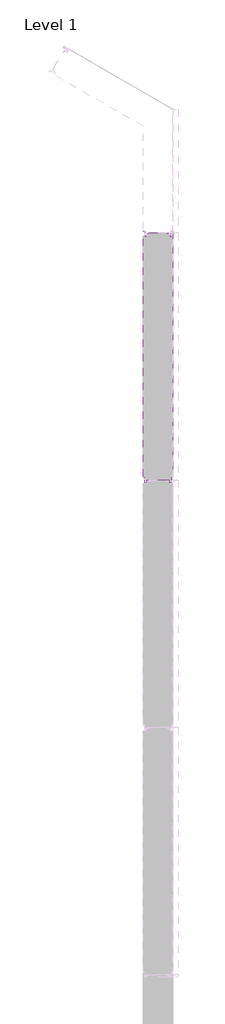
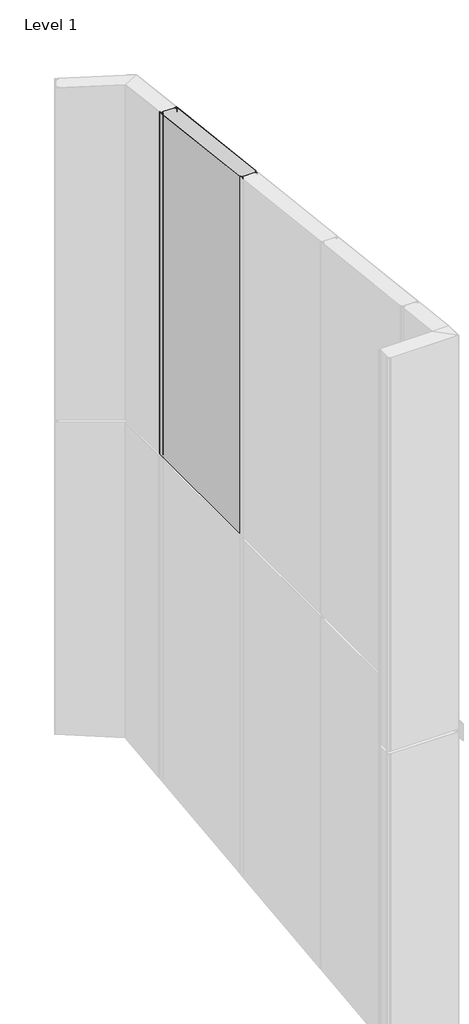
# One storey, part 11 of 16: 1 plate.
"""IFC4 building model written with IfcOpenShell, lengths in millimetres."""

from ifc_helpers import new_model, si_unit, frame, origin, place, context, project, spatial, polyline, circle_curve, ellipse_curve, element, save
from ifc_brep_helpers import plane_surface, cylinder_surface, revolved_surface, advanced_brep

model = new_model("IFC4")

# Units and contexts
model_context = context("Model", 3, world=origin())
ifc_project = project(units=[si_unit("LENGTHUNIT", "METRE", prefix="MILLI")], contexts=[model_context])

# Site, building, storey
site = spatial("IfcSite", under=ifc_project)
building = spatial("IfcBuilding", under=site)
storey = spatial("IfcBuildingStorey", under=building, Name="Level 1", Elevation=0.0)

# Plate
placement = place(None, origin())
element("IfcPlate", 1, ObjectType="TR_C_V_FTV_Panel : 120/RAL9006/RAL9002", at=placement, inside=storey, context=model_context, shape_type="AdvancedBrep", body=[
    advanced_brep(
    [(-11.0024729, 6469.8069107, 3000.0), (-6.5215976, 6466.0470099, 3000.0), (-5.7782846, 6461.8314726, 3000.0), (-0.9155057, 6462.2569107, 3000.0), (-0.9155057, 6477.0069107, 3000.0), (0.051042, 6479.340363, 3000.0), (4.4401293, 6483.7294503, 3000.0), (5.0844943, 6485.2850853, 3000.0), (5.0844943, 7474.6255398, 3000.0), (4.5133526, 7476.004398, 3000.0), (2.6476671, 7477.8700835, 3000.0), (0.6844943, 7477.0569107, 3000.0), (0.6844943, 7459.4569107, 3000.0), (-7.7509386, 7458.7189059, 3000.0), (-8.8177639, 7464.7691728, 3000.0), (-11.7229468, 7467.2069107, 3000.0), (-15.1155057, 7467.2069107, 3000.0), (-15.1155057, 7468.0069107, 3000.0), (-11.7229468, 7468.0069107, 3000.0), (-8.0299177, 7464.9080913, 3000.0), (-6.9630924, 7458.8578244, 3000.0), (-0.1155057, 7459.4569107, 3000.0), (-0.1155057, 7477.0569107, 3000.0), (3.2133526, 7478.4357689, 3000.0), (5.079038, 7476.5700835, 3000.0), (5.8844943, 7474.6255398, 3000.0), (5.8844943, 6485.2850853, 3000.0), (5.0058147, 6483.1637649, 3000.0), (0.6167274, 6478.7746776, 3000.0), (-0.1155057, 6477.0069107, 3000.0), (-0.1155057, 6462.2569107, 3000.0), (-6.5661308, 6461.6925541, 3000.0), (-7.3094438, 6465.9080913, 3000.0), (-11.0024729, 6469.0069107, 3000.0), (-15.1155057, 6469.0069107, 3000.0), (-15.1155057, 6469.8069107, 3000.0), (-15.1155057, 6469.8069107, 5703.2325583), (-11.0024729, 6469.8069107, 5703.2325583), (-15.1155057, 6469.0069107, 5703.3255816), (-11.0024729, 6469.0069107, 5703.3255816), (-7.3094438, 6465.9080913, 5703.6859094), (-6.5661308, 6461.6925541, 5704.1760881), (-0.1155057, 6462.2569107, 5704.1104653), (-0.1155057, 6477.0069107, 5702.395349), (0.6167274, 6478.7746776, 5702.1897947), (5.0058147, 6483.1637649, 5701.6794357), (5.8844943, 6485.2850853, 5701.4327706), (5.8844943, 7474.6255398, 5586.3931828), (5.079038, 7476.5700835, 5586.1670731), (3.2133526, 7478.4357689, 5585.9501329), (-0.1155057, 7477.0569107, 5586.1104653), (-0.1155057, 7459.4569107, 5588.1569769), (-6.9630924, 7458.8578244, 5588.2266381), (-8.0299177, 7464.9080913, 5587.5231187), (-11.7229468, 7468.0069107, 5587.1627909), (-15.1155057, 7468.0069107, 5587.1627909), (-15.1155057, 7467.2069107, 5587.2558141), (-11.7229468, 7467.2069107, 5587.2558141), (-8.8177639, 7464.7691728, 5587.539272), (-7.7509386, 7458.7189059, 5588.2427914), (0.6844943, 7459.4569107, 5588.1569769), (0.6844943, 7477.0569107, 5586.1104653), (2.6476671, 7477.8700835, 5586.0159103), (4.5133526, 7476.004398, 5586.2328505), (5.0844943, 7474.6255398, 5586.3931828), (5.0844943, 6485.2850853, 5701.4327706), (4.4401293, 6483.7294503, 5701.6136583), (0.051042, 6479.340363, 5702.1240173), (-0.9155057, 6477.0069107, 5702.395349), (-0.9155057, 6462.2569107, 5704.1104653), (-5.7782846, 6461.8314726, 5704.1599348), (-6.5215976, 6466.0470099, 5703.6697561)],
    [
        (0, 1, circle_curve(frame((-11.0024729, 6465.2569107, 3000.0), z_axis=(0.0, 0.0, -1.0), x_axis=(0.0, -1.0, 0.0)), 4.55)),
        (1, 2),
        (2, 3, circle_curve(frame((-3.3655057, 6462.2569107, 3000.0), z_axis=(0.0, 0.0, 1.0), x_axis=(0.0, -1.0, 0.0)), 2.45)),
        (3, 4),
        (4, 5, circle_curve(frame((2.3844943, 6477.0069107, 3000.0), z_axis=(0.0, 0.0, -1.0), x_axis=(0.0, -1.0, 0.0)), 3.3)),
        (5, 6),
        (6, 7, circle_curve(frame((2.8844943, 6485.2850853, 3000.0), z_axis=(0.0, 0.0, 1.0), x_axis=(0.0, -1.0, 0.0)), 2.2)),
        (7, 8),
        (8, 9, circle_curve(frame((3.1344943, 7474.6255398, 3000.0), z_axis=(0.0, 0.0, 1.0), x_axis=(0.0, -1.0, 0.0)), 1.95)),
        (9, 10),
        (10, 11, circle_curve(frame((1.8344943, 7477.0569107, 3000.0), z_axis=(0.0, 0.0, 1.0), x_axis=(0.0, -1.0, 0.0)), 1.15)),
        (11, 12),
        (12, 13, circle_curve(frame((-3.5655057, 7459.4569107, 3000.0), z_axis=(0.0, 0.0, -1.0), x_axis=(0.0, -1.0, 0.0)), 4.25)),
        (13, 14),
        (14, 15, circle_curve(frame((-11.7229468, 7464.2569107, 3000.0), z_axis=(0.0, 0.0, 1.0), x_axis=(0.0, -1.0, 0.0)), 2.95)),
        (15, 16),
        (16, 17),
        (17, 18),
        (18, 19, circle_curve(frame((-11.7229468, 7464.2569107, 3000.0), z_axis=(0.0, 0.0, -1.0), x_axis=(0.0, -1.0, 0.0)), 3.75)),
        (19, 20),
        (20, 21, circle_curve(frame((-3.5655057, 7459.4569107, 3000.0), z_axis=(0.0, 0.0, 1.0), x_axis=(0.0, -1.0, 0.0)), 3.45)),
        (21, 22),
        (22, 23, circle_curve(frame((1.8344943, 7477.0569107, 3000.0), z_axis=(0.0, 0.0, -1.0), x_axis=(0.0, -1.0, 0.0)), 1.95)),
        (23, 24),
        (24, 25, circle_curve(frame((3.1344943, 7474.6255398, 3000.0), z_axis=(0.0, 0.0, -1.0), x_axis=(0.0, -1.0, 0.0)), 2.75)),
        (25, 26),
        (26, 27, circle_curve(frame((2.8844943, 6485.2850853, 3000.0), z_axis=(0.0, 0.0, -1.0), x_axis=(0.0, -1.0, 0.0)), 3.0)),
        (27, 28),
        (28, 29, circle_curve(frame((2.3844943, 6477.0069107, 3000.0), z_axis=(0.0, 0.0, 1.0), x_axis=(0.0, -1.0, 0.0)), 2.5)),
        (29, 30),
        (30, 31, circle_curve(frame((-3.3655057, 6462.2569107, 3000.0), z_axis=(0.0, 0.0, -1.0), x_axis=(0.0, -1.0, 0.0)), 3.25)),
        (31, 32),
        (32, 33, circle_curve(frame((-11.0024729, 6465.2569107, 3000.0), z_axis=(0.0, 0.0, 1.0), x_axis=(0.0, -1.0, 0.0)), 3.75)),
        (33, 34),
        (34, 35),
        (35, 0),
        (35, 36),
        (36, 37),
        (37, 0),
        (34, 38),
        (38, 36),
        (33, 39),
        (39, 38),
        (32, 40),
        (40, 39, ellipse_curve(frame((-11.0024729, 6465.2569107, 5703.7616281), z_axis=(0.0, 0.1155008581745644, 0.9933073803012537), x_axis=(0.0, 0.9933073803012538, -0.11550085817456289)), 3.7752664, 3.75)),
        (31, 41),
        (41, 40),
        (30, 42),
        (42, 41, ellipse_curve(frame((-3.3655057, 6462.2569107, 5704.1104653), z_axis=(0.0, -0.1155008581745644, -0.9933073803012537), x_axis=(0.0, -0.9933073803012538, 0.11550085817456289)), 3.2718976, 3.25)),
        (29, 43),
        (43, 42),
        (28, 44),
        (44, 43, ellipse_curve(frame((2.3844943, 6477.0069107, 5702.395349), z_axis=(0.0, 0.1155008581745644, 0.9933073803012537), x_axis=(0.0, 0.9933073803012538, -0.11550085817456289)), 2.5168443, 2.5)),
        (27, 45),
        (45, 44),
        (26, 46),
        (46, 45, ellipse_curve(frame((2.8844943, 6485.2850853, 5701.4327706), z_axis=(0.0, -0.1155008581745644, -0.9933073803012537), x_axis=(0.0, -0.9933073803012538, 0.11550085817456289)), 3.0202131, 3.0)),
        (25, 47),
        (47, 46),
        (24, 48),
        (48, 47, ellipse_curve(frame((3.1344943, 7474.6255398, 5586.3931828), z_axis=(0.0, -0.1155008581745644, -0.9933073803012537), x_axis=(0.0, -0.9933073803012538, 0.11550085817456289)), 2.7685287, 2.75)),
        (23, 49),
        (49, 48),
        (22, 50),
        (50, 49, ellipse_curve(frame((1.8344943, 7477.0569107, 5586.1104653), z_axis=(0.0, -0.1155008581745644, -0.9933073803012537), x_axis=(0.0, -0.9933073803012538, 0.11550085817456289)), 1.9631385, 1.95)),
        (21, 51),
        (51, 50),
        (20, 52),
        (52, 51, ellipse_curve(frame((-3.5655057, 7459.4569107, 5588.1569769), z_axis=(0.0, 0.1155008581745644, 0.9933073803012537), x_axis=(0.0, 0.9933073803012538, -0.11550085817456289)), 3.4732451, 3.45)),
        (19, 53),
        (53, 52),
        (18, 54),
        (54, 53, ellipse_curve(frame((-11.7229468, 7464.2569107, 5587.5988374), z_axis=(0.0, -0.1155008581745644, -0.9933073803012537), x_axis=(0.0, -0.9933073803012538, 0.11550085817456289)), 3.7752664, 3.75)),
        (17, 55),
        (55, 54),
        (16, 56),
        (56, 55),
        (15, 57),
        (57, 56),
        (14, 58),
        (58, 57, ellipse_curve(frame((-11.7229468, 7464.2569107, 5587.5988374), z_axis=(0.0, 0.1155008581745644, 0.9933073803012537), x_axis=(0.0, 0.9933073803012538, -0.11550085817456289)), 2.9698763, 2.95)),
        (13, 59),
        (59, 58),
        (12, 60),
        (60, 59, ellipse_curve(frame((-3.5655057, 7459.4569107, 5588.1569769), z_axis=(0.0, -0.1155008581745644, -0.9933073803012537), x_axis=(0.0, -0.9933073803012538, 0.11550085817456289)), 4.2786353, 4.25)),
        (11, 61),
        (61, 60),
        (10, 62),
        (62, 61, ellipse_curve(frame((1.8344943, 7477.0569107, 5586.1104653), z_axis=(0.0, 0.1155008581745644, 0.9933073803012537), x_axis=(0.0, 0.9933073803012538, -0.11550085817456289)), 1.1577484, 1.15)),
        (9, 63),
        (63, 62),
        (8, 64),
        (64, 63, ellipse_curve(frame((3.1344943, 7474.6255398, 5586.3931828), z_axis=(0.0, 0.1155008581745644, 0.9933073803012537), x_axis=(0.0, 0.9933073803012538, -0.11550085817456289)), 1.9631385, 1.95)),
        (7, 65),
        (65, 64),
        (6, 66),
        (66, 65, ellipse_curve(frame((2.8844943, 6485.2850853, 5701.4327706), z_axis=(0.0, 0.1155008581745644, 0.9933073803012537), x_axis=(0.0, 0.9933073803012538, -0.11550085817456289)), 2.214823, 2.2)),
        (5, 67),
        (67, 66),
        (4, 68),
        (68, 67, ellipse_curve(frame((2.3844943, 6477.0069107, 5702.395349), z_axis=(0.0, -0.1155008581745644, -0.9933073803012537), x_axis=(0.0, -0.9933073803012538, 0.11550085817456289)), 3.3222345, 3.3)),
        (3, 69),
        (69, 68),
        (2, 70),
        (70, 69, ellipse_curve(frame((-3.3655057, 6462.2569107, 5704.1104653), z_axis=(0.0, 0.1155008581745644, 0.9933073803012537), x_axis=(0.0, 0.9933073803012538, -0.11550085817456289)), 2.4665074, 2.45)),
        (1, 71),
        (71, 70),
        (37, 71, ellipse_curve(frame((-11.0024729, 6465.2569107, 5703.7616281), z_axis=(0.0, -0.1155008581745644, -0.9933073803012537), x_axis=(0.0, -0.9933073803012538, 0.11550085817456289)), 4.5806566, 4.55)),
    ],
    [
        plane_surface(frame((-15.1155057, 6469.8069107, 3000.0), z_axis=(0.0, 0.0, -1.0), x_axis=(1.0, 0.0, 0.0))),
        plane_surface(frame((-11.0024729, 6469.8069107, 5980.0), z_axis=(0.0, 1.0, 0.0), x_axis=(0.0, 0.0, -1.0))),
        plane_surface(frame((-15.1155057, 6469.8069107, 5980.0), z_axis=(-1.0, 0.0, 0.0), x_axis=(0.0, 0.0, -1.0))),
        plane_surface(frame((-15.1155057, 6469.0069107, 5980.0), z_axis=(0.0, -1.0, 0.0), x_axis=(0.0, 0.0, -1.0))),
        revolved_surface(polyline([(-11.0024729, 6461.5069107, 3000.0), (-11.0024729, 6461.5069107, 5704.197674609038)]), (-11.0024729, 6465.2569107, 3000.0), (0.0, 0.0, -1.0)),
        plane_surface(frame((-7.3094438, 6465.9080913, 5980.0), z_axis=(-0.9848077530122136, -0.17364817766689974, 0.0), x_axis=(0.0, 0.0, -1.0))),
        cylinder_surface(frame((-3.3655057, 6462.2569107, 3000.0), z_axis=(0.0, 0.0, 1.0), x_axis=(0.0, -1.0, 0.0)), 3.25),
        plane_surface(frame((-0.1155057, 6462.2569107, 5980.0), z_axis=(1.0, 0.0, 0.0), x_axis=(0.0, 0.0, -1.0))),
        revolved_surface(polyline([(2.3844943, 6474.5069107, 3000.0), (2.3844943, 6474.5069107, 5702.686046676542)]), (2.3844943, 6477.0069107, 3000.0), (0.0, 0.0, -1.0)),
        plane_surface(frame((0.6167274, 6478.7746776, 5980.0), z_axis=(0.7071067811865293, -0.7071067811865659, 0.0), x_axis=(0.0, 0.0, -1.0))),
        cylinder_surface(frame((2.8844943, 6485.2850853, 3000.0), z_axis=(0.0, 0.0, 1.0), x_axis=(0.0, -1.0, 0.0)), 3.0),
        plane_surface(frame((5.8844943, 6485.2850853, 5980.0), z_axis=(1.0, 0.0, 0.0), x_axis=(0.0, 0.0, -1.0))),
        cylinder_surface(frame((3.1344943, 7474.6255398, 3000.0), z_axis=(0.0, 0.0, 1.0), x_axis=(0.0, -1.0, 0.0)), 2.75),
        plane_surface(frame((5.079038, 7476.5700835, 5980.0), z_axis=(0.7071067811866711, 0.707106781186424, 0.0), x_axis=(0.0, 0.0, -1.0))),
        cylinder_surface(frame((1.8344943, 7477.0569107, 3000.0), z_axis=(0.0, 0.0, 1.0), x_axis=(0.0, -1.0, 0.0)), 1.95),
        plane_surface(frame((-0.1155057, 7477.0569107, 5980.0), z_axis=(-1.0, 0.0, 0.0), x_axis=(0.0, 0.0, -1.0))),
        revolved_surface(polyline([(-3.5655057, 7456.0069107, 3000.0), (-3.5655057, 7456.0069107, 5588.5581396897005)]), (-3.5655057, 7459.4569107, 3000.0), (0.0, 0.0, -1.0)),
        plane_surface(frame((-6.9630924, 7458.8578244, 5980.0), z_axis=(0.9848077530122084, 0.17364817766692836, 0.0), x_axis=(0.0, 0.0, -1.0))),
        cylinder_surface(frame((-11.7229468, 7464.2569107, 3000.0), z_axis=(0.0, 0.0, 1.0), x_axis=(0.0, -1.0, 0.0)), 3.75),
        plane_surface(frame((-11.7229468, 7468.0069107, 5980.0), z_axis=(0.0, 1.0, 0.0), x_axis=(0.0, 0.0, -1.0))),
        plane_surface(frame((-15.1155057, 7468.0069107, 5980.0), z_axis=(-1.0, 0.0, 0.0), x_axis=(0.0, 0.0, -1.0))),
        plane_surface(frame((-15.1155057, 7467.2069107, 5980.0), z_axis=(0.0, -1.0, 0.0), x_axis=(0.0, 0.0, -1.0))),
        revolved_surface(polyline([(-11.7229468, 7461.3069107, 3000.0), (-11.7229468, 7461.3069107, 5587.941860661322)]), (-11.7229468, 7464.2569107, 3000.0), (0.0, 0.0, -1.0)),
        plane_surface(frame((-8.8177639, 7464.7691728, 5980.0), z_axis=(-0.9848077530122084, -0.17364817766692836, 0.0), x_axis=(0.0, 0.0, -1.0))),
        cylinder_surface(frame((-3.5655057, 7459.4569107, 3000.0), z_axis=(0.0, 0.0, 1.0), x_axis=(0.0, -1.0, 0.0)), 4.25),
        plane_surface(frame((0.6844943, 7459.4569107, 5980.0), z_axis=(1.0, 0.0, 0.0), x_axis=(0.0, 0.0, -1.0))),
        revolved_surface(polyline([(1.8344943, 7475.9069107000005, 3000.0), (1.8344943, 7475.9069107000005, 5586.244186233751)]), (1.8344943, 7477.0569107, 3000.0), (0.0, 0.0, -1.0)),
        plane_surface(frame((2.6476671, 7477.8700835, 5980.0), z_axis=(-0.7071067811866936, -0.7071067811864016, 0.0), x_axis=(0.0, 0.0, -1.0))),
        revolved_surface(polyline([(3.1344943, 7472.6755398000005, 3000.0), (3.1344943, 7472.6755398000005, 5586.619926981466)]), (3.1344943, 7474.6255398, 3000.0), (0.0, 0.0, -1.0)),
        plane_surface(frame((5.0844943, 7474.6255398, 5980.0), z_axis=(-1.0, 0.0, 0.0), x_axis=(0.0, 0.0, -1.0))),
        revolved_surface(polyline([(2.8844943, 6483.0850853, 3000.0), (2.8844943, 6483.0850853, 5701.688584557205)]), (2.8844943, 6485.2850853, 3000.0), (0.0, 0.0, -1.0)),
        plane_surface(frame((4.4401293, 6483.7294503, 5980.0), z_axis=(-0.7071067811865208, 0.7071067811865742, 0.0), x_axis=(0.0, 0.0, -1.0))),
        cylinder_surface(frame((2.3844943, 6477.0069107, 3000.0), z_axis=(0.0, 0.0, 1.0), x_axis=(0.0, -1.0, 0.0)), 3.3),
        plane_surface(frame((-0.9155057, 6477.0069107, 5980.0), z_axis=(-1.0, 0.0, 0.0), x_axis=(0.0, 0.0, -1.0))),
        revolved_surface(polyline([(-3.3655057, 6459.8069107, 3000.0), (-3.3655057, 6459.8069107, 5704.3953490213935)]), (-3.3655057, 6462.2569107, 3000.0), (0.0, 0.0, -1.0)),
        plane_surface(frame((-5.7782846, 6461.8314726, 5980.0), z_axis=(0.9848077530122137, 0.17364817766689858, 0.0), x_axis=(0.0, 0.0, -1.0))),
        cylinder_surface(frame((-11.0024729, 6465.2569107, 3000.0), z_axis=(0.0, 0.0, 1.0), x_axis=(0.0, -1.0, 0.0)), 4.55),
        plane_surface(frame((5.8844943, 6239.6069121, 5730.0), z_axis=(0.0, 0.1155008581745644, 0.9933073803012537), x_axis=(0.0, -0.9933073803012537, 0.1155008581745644))),
    ],
    [
        (0, [[1, 2, 3, 4, 5, 6, 7, 8, 9, 10, 11, 12, 13, 14, 15, 16, 17, 18, 19, 20, 21, 22, 23, 24, 25, 26, 27, 28, 29, 30, 31, 32, 33, 34, 35, 36]]),
        (1, [[-36, 37, 38, 39]]),
        (2, [[-35, 40, 41, -37]]),
        (3, [[-34, 42, 43, -40]]),
        (4, [[-33, 44, 45, -42]]),
        (5, [[-32, 46, 47, -44]]),
        (6, [[-31, 48, 49, -46]]),
        (7, [[-30, 50, 51, -48]]),
        (8, [[-29, 52, 53, -50]]),
        (9, [[-28, 54, 55, -52]]),
        (10, [[-27, 56, 57, -54]]),
        (11, [[-26, 58, 59, -56]]),
        (12, [[-25, 60, 61, -58]]),
        (13, [[-24, 62, 63, -60]]),
        (14, [[-23, 64, 65, -62]]),
        (15, [[-22, 66, 67, -64]]),
        (16, [[-21, 68, 69, -66]]),
        (17, [[-20, 70, 71, -68]]),
        (18, [[-19, 72, 73, -70]]),
        (19, [[-18, 74, 75, -72]]),
        (20, [[-17, 76, 77, -74]]),
        (21, [[-16, 78, 79, -76]]),
        (22, [[-15, 80, 81, -78]]),
        (23, [[-14, 82, 83, -80]]),
        (24, [[-13, 84, 85, -82]]),
        (25, [[-12, 86, 87, -84]]),
        (26, [[-11, 88, 89, -86]]),
        (27, [[-10, 90, 91, -88]]),
        (28, [[-9, 92, 93, -90]]),
        (29, [[-8, 94, 95, -92]]),
        (30, [[-7, 96, 97, -94]]),
        (31, [[-6, 98, 99, -96]]),
        (32, [[-5, 100, 101, -98]]),
        (33, [[-4, 102, 103, -100]]),
        (34, [[-3, 104, 105, -102]]),
        (35, [[-2, 106, 107, -104]]),
        (36, [[-1, -39, 108, -106]]),
        (37, [[-38, -41, -43, -45, -47, -49, -51, -53, -55, -57, -59, -61, -63, -65, -67, -69, -71, -73, -75, -77, -79, -81, -83, -85, -87, -89, -91, -93, -95, -97, -99, -101, -103, -105, -107, -108]]),
    ],
),
    advanced_brep(
    [(-17.8155057, 7469.6069107, 3000.0), (-17.8155057, 7467.2069107, 3000.0), (-11.7229468, 7467.2069107, 3000.0), (-8.8177639, 7464.7691728, 3000.0), (-7.7509386, 7458.7189059, 3000.0), (-3.5655057, 7455.2069107, 3000.0), (5.0844943, 7455.2069107, 3000.0), (5.0844943, 6485.2850853, 3000.0), (4.4401293, 6483.7294503, 3000.0), (0.051042, 6479.340363, 3000.0), (-0.9155057, 6477.0069107, 3000.0), (-0.9155057, 6469.6069118, 3000.0), (-107.3155057, 6469.6069118, 3000.0), (-107.3155057, 6477.0069107, 3000.0), (-108.2820533, 6479.340363, 3000.0), (-112.6711406, 6483.7294503, 3000.0), (-113.3155057, 6485.2850853, 3000.0), (-113.3155057, 7455.2069107, 3000.0), (-104.6655057, 7455.2069107, 3000.0), (-100.4800727, 7458.7189059, 3000.0), (-99.4132474, 7464.7691728, 3000.0), (-96.5080645, 7467.2069107, 3000.0), (-90.4155057, 7467.2069107, 3000.0), (-90.4155057, 7469.6069107, 3000.0), (-90.4155057, 7469.6069107, 5586.9767444), (-17.8155057, 7469.6069107, 5586.9767444), (-90.4155057, 7467.2069107, 5587.2558141), (-96.5080645, 7467.2069107, 5587.2558141), (-99.4132474, 7464.7691728, 5587.539272), (-100.4800727, 7458.7189059, 5588.2427914), (-104.6655057, 7455.2069107, 5588.651163), (-113.3155057, 7455.2069107, 5588.651163), (-113.3155057, 6485.2850853, 5701.4327706), (-112.6711406, 6483.7294503, 5701.6136583), (-108.2820533, 6479.340363, 5702.1240173), (-107.3155057, 6477.0069107, 5702.395349), (-107.3155057, 6469.6069118, 5703.255814), (-0.9155057, 6469.6069118, 5703.255814), (-0.9155057, 6477.0069107, 5702.395349), (0.051042, 6479.340363, 5702.1240173), (4.4401293, 6483.7294503, 5701.6136583), (5.0844943, 6485.2850853, 5701.4327706), (5.0844943, 7455.2069107, 5588.651163), (-3.5655057, 7455.2069107, 5588.651163), (-7.7509386, 7458.7189059, 5588.2427914), (-8.8177639, 7464.7691728, 5587.539272), (-11.7229468, 7467.2069107, 5587.2558141), (-17.8155057, 7467.2069107, 5587.2558141)],
    [
        (0, 1),
        (1, 2),
        (2, 3, circle_curve(frame((-11.7229468, 7464.2569107, 3000.0), z_axis=(0.0, 0.0, -1.0), x_axis=(0.0, -1.0, 0.0)), 2.95)),
        (3, 4),
        (4, 5, circle_curve(frame((-3.5655057, 7459.4569107, 3000.0), z_axis=(0.0, 0.0, 1.0), x_axis=(0.0, -1.0, 0.0)), 4.25)),
        (5, 6),
        (6, 7),
        (7, 8, circle_curve(frame((2.8844943, 6485.2850853, 3000.0), z_axis=(0.0, 0.0, -1.0), x_axis=(0.0, -1.0, 0.0)), 2.2)),
        (8, 9),
        (9, 10, circle_curve(frame((2.3844943, 6477.0069107, 3000.0), z_axis=(0.0, 0.0, 1.0), x_axis=(0.0, -1.0, 0.0)), 3.3)),
        (10, 11),
        (11, 12),
        (12, 13),
        (13, 14, circle_curve(frame((-110.6155057, 6477.0069107, 3000.0), z_axis=(0.0, 0.0, 1.0), x_axis=(0.0, -1.0, 0.0)), 3.3)),
        (14, 15),
        (15, 16, circle_curve(frame((-111.1155057, 6485.2850853, 3000.0), z_axis=(0.0, 0.0, -1.0), x_axis=(0.0, -1.0, 0.0)), 2.2)),
        (16, 17),
        (17, 18),
        (18, 19, circle_curve(frame((-104.6655057, 7459.4569107, 3000.0), z_axis=(0.0, 0.0, 1.0), x_axis=(0.0, -1.0, 0.0)), 4.25)),
        (19, 20),
        (20, 21, circle_curve(frame((-96.5080645, 7464.2569107, 3000.0), z_axis=(0.0, 0.0, -1.0), x_axis=(0.0, -1.0, 0.0)), 2.95)),
        (21, 22),
        (22, 23),
        (23, 0),
        (23, 24),
        (24, 25),
        (25, 0),
        (22, 26),
        (26, 24),
        (21, 27),
        (27, 26),
        (20, 28),
        (28, 27, ellipse_curve(frame((-96.5080645, 7464.2569107, 5587.5988374), z_axis=(0.0, -0.1155008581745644, -0.9933073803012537), x_axis=(0.0, -0.9933073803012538, 0.11550085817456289)), 2.9698763, 2.95)),
        (19, 29),
        (29, 28),
        (18, 30),
        (30, 29, ellipse_curve(frame((-104.6655057, 7459.4569107, 5588.1569769), z_axis=(0.0, 0.1155008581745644, 0.9933073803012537), x_axis=(0.0, 0.9933073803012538, -0.11550085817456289)), 4.2786353, 4.25)),
        (17, 31),
        (31, 30),
        (16, 32),
        (32, 31),
        (15, 33),
        (33, 32, ellipse_curve(frame((-111.1155057, 6485.2850853, 5701.4327706), z_axis=(0.0, -0.1155008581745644, -0.9933073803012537), x_axis=(0.0, -0.9933073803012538, 0.11550085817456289)), 2.214823, 2.2)),
        (14, 34),
        (34, 33),
        (13, 35),
        (35, 34, ellipse_curve(frame((-110.6155057, 6477.0069107, 5702.395349), z_axis=(0.0, 0.1155008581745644, 0.9933073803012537), x_axis=(0.0, 0.9933073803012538, -0.11550085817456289)), 3.3222345, 3.3)),
        (12, 36),
        (36, 35),
        (11, 37),
        (37, 36),
        (10, 38),
        (38, 37),
        (9, 39),
        (39, 38, ellipse_curve(frame((2.3844943, 6477.0069107, 5702.395349), z_axis=(0.0, 0.1155008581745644, 0.9933073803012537), x_axis=(0.0, 0.9933073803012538, -0.11550085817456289)), 3.3222345, 3.3)),
        (8, 40),
        (40, 39),
        (7, 41),
        (41, 40, ellipse_curve(frame((2.8844943, 6485.2850853, 5701.4327706), z_axis=(0.0, -0.1155008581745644, -0.9933073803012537), x_axis=(0.0, -0.9933073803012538, 0.11550085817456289)), 2.214823, 2.2)),
        (6, 42),
        (42, 41),
        (5, 43),
        (43, 42),
        (4, 44),
        (44, 43, ellipse_curve(frame((-3.5655057, 7459.4569107, 5588.1569769), z_axis=(0.0, 0.1155008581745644, 0.9933073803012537), x_axis=(0.0, 0.9933073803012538, -0.11550085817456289)), 4.2786353, 4.25)),
        (3, 45),
        (45, 44),
        (2, 46),
        (46, 45, ellipse_curve(frame((-11.7229468, 7464.2569107, 5587.5988374), z_axis=(0.0, -0.1155008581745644, -0.9933073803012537), x_axis=(0.0, -0.9933073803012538, 0.11550085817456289)), 2.9698763, 2.95)),
        (1, 47),
        (47, 46),
        (25, 47),
    ],
    [
        plane_surface(frame((-90.4155057, 7469.6069107, 3000.0), z_axis=(0.0, 0.0, -1.0), x_axis=(1.0, 0.0, 0.0))),
        plane_surface(frame((-17.8155057, 7469.6069107, 5980.0), z_axis=(0.0, 1.0, 0.0), x_axis=(0.0, 0.0, -1.0))),
        plane_surface(frame((-90.4155057, 7469.6069107, 5980.0), z_axis=(-1.0, 0.0, 0.0), x_axis=(0.0, 0.0, -1.0))),
        plane_surface(frame((-90.4155057, 7467.2069107, 5980.0), z_axis=(0.0, 1.0, 0.0), x_axis=(0.0, 0.0, -1.0))),
        cylinder_surface(frame((-96.5080645, 7464.2569107, 3000.0), z_axis=(0.0, 0.0, 1.0), x_axis=(0.0, -1.0, 0.0)), 2.95),
        plane_surface(frame((-99.4132474, 7464.7691728, 5980.0), z_axis=(-0.9848077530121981, 0.17364817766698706, 0.0), x_axis=(0.0, 0.0, -1.0))),
        revolved_surface(polyline([(-104.6655057, 7455.2069107, 3000.0), (-104.6655057, 7455.2069107, 5588.651163)]), (-104.6655057, 7459.4569107, 3000.0), (0.0, 0.0, -1.0)),
        plane_surface(frame((-104.6655057, 7455.2069107, 5980.0), z_axis=(0.0, 1.0, 0.0), x_axis=(0.0, 0.0, -1.0))),
        plane_surface(frame((-113.3155057, 7455.2069107, 5980.0), z_axis=(-1.0, 0.0, 0.0), x_axis=(0.0, 0.0, -1.0))),
        cylinder_surface(frame((-111.1155057, 6485.2850853, 3000.0), z_axis=(0.0, 0.0, 1.0), x_axis=(0.0, -1.0, 0.0)), 2.2),
        plane_surface(frame((-112.6711406, 6483.7294503, 5980.0), z_axis=(-0.7071067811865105, -0.7071067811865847, 0.0), x_axis=(0.0, 0.0, -1.0))),
        revolved_surface(polyline([(-110.6155057, 6473.7069107, 3000.0), (-110.6155057, 6473.7069107, 5702.7790699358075)]), (-110.6155057, 6477.0069107, 3000.0), (0.0, 0.0, -1.0)),
        plane_surface(frame((-107.3155057, 6477.0069107, 5980.0), z_axis=(-1.0, 0.0, 0.0), x_axis=(0.0, 0.0, -1.0))),
        plane_surface(frame((-107.3155057, 6469.6069118, 5980.0), z_axis=(0.0, -1.0, 0.0), x_axis=(0.0, 0.0, -1.0))),
        plane_surface(frame((-0.9155057, 6469.6069118, 5980.0), z_axis=(1.0, 0.0, 0.0), x_axis=(0.0, 0.0, -1.0))),
        revolved_surface(polyline([(2.3844943, 6473.7069107, 3000.0), (2.3844943, 6473.7069107, 5702.7790699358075)]), (2.3844943, 6477.0069107, 3000.0), (0.0, 0.0, -1.0)),
        plane_surface(frame((0.051042, 6479.340363, 5980.0), z_axis=(0.7071067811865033, -0.7071067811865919, 0.0), x_axis=(0.0, 0.0, -1.0))),
        cylinder_surface(frame((2.8844943, 6485.2850853, 3000.0), z_axis=(0.0, 0.0, 1.0), x_axis=(0.0, -1.0, 0.0)), 2.2),
        plane_surface(frame((5.0844943, 6485.2850853, 5980.0), z_axis=(1.0, 0.0, 0.0), x_axis=(0.0, 0.0, -1.0))),
        plane_surface(frame((5.0844943, 7455.2069107, 5980.0), z_axis=(0.0, 1.0, 0.0), x_axis=(0.0, 0.0, -1.0))),
        revolved_surface(polyline([(-3.5655057, 7455.2069107, 3000.0), (-3.5655057, 7455.2069107, 5588.651163)]), (-3.5655057, 7459.4569107, 3000.0), (0.0, 0.0, -1.0)),
        plane_surface(frame((-7.7509386, 7458.7189059, 5980.0), z_axis=(0.9848077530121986, 0.17364817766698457, 0.0), x_axis=(0.0, 0.0, -1.0))),
        cylinder_surface(frame((-11.7229468, 7464.2569107, 3000.0), z_axis=(0.0, 0.0, 1.0), x_axis=(0.0, -1.0, 0.0)), 2.95),
        plane_surface(frame((-11.7229468, 7467.2069107, 5980.0), z_axis=(0.0, 1.0, 0.0), x_axis=(0.0, 0.0, -1.0))),
        plane_surface(frame((-17.8155057, 7467.2069107, 5980.0), z_axis=(1.0, 0.0, 0.0), x_axis=(0.0, 0.0, -1.0))),
        plane_surface(frame((5.8844943, 6239.6069121, 5730.0), z_axis=(0.0, 0.1155008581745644, 0.9933073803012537), x_axis=(0.0, -0.9933073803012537, 0.1155008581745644))),
    ],
    [
        (0, [[1, 2, 3, 4, 5, 6, 7, 8, 9, 10, 11, 12, 13, 14, 15, 16, 17, 18, 19, 20, 21, 22, 23, 24]]),
        (1, [[-24, 25, 26, 27]]),
        (2, [[-23, 28, 29, -25]]),
        (3, [[-22, 30, 31, -28]]),
        (4, [[-21, 32, 33, -30]]),
        (5, [[-20, 34, 35, -32]]),
        (6, [[-19, 36, 37, -34]]),
        (7, [[-18, 38, 39, -36]]),
        (8, [[-17, 40, 41, -38]]),
        (9, [[-16, 42, 43, -40]]),
        (10, [[-15, 44, 45, -42]]),
        (11, [[-14, 46, 47, -44]]),
        (12, [[-13, 48, 49, -46]]),
        (13, [[-12, 50, 51, -48]]),
        (14, [[-11, 52, 53, -50]]),
        (15, [[-10, 54, 55, -52]]),
        (16, [[-9, 56, 57, -54]]),
        (17, [[-8, 58, 59, -56]]),
        (18, [[-7, 60, 61, -58]]),
        (19, [[-6, 62, 63, -60]]),
        (20, [[-5, 64, 65, -62]]),
        (21, [[-4, 66, 67, -64]]),
        (22, [[-3, 68, 69, -66]]),
        (23, [[-2, 70, 71, -68]]),
        (24, [[-1, -27, 72, -70]]),
        (25, [[-26, -29, -31, -33, -35, -37, -39, -41, -43, -45, -47, -49, -51, -53, -55, -57, -59, -61, -63, -65, -67, -69, -71, -72]]),
    ],
),
    advanced_brep(
    [(-97.2285384, 6469.8069107, 3000.0), (-93.1155057, 6469.8069107, 3000.0), (-93.1155057, 6469.0069107, 3000.0), (-97.2285384, 6469.0069107, 3000.0), (-100.9215675, 6465.9080913, 3000.0), (-101.6648805, 6461.6925541, 3000.0), (-108.1155057, 6462.2569107, 3000.0), (-108.1155057, 6477.0069107, 3000.0), (-108.8477387, 6478.7746776, 3000.0), (-113.236826, 6483.1637649, 3000.0), (-114.1155057, 6485.2850853, 3000.0), (-114.1155057, 7474.6255398, 3000.0), (-113.3100493, 7476.5700835, 3000.0), (-111.4443639, 7478.4357689, 3000.0), (-108.1155057, 7477.0569107, 3000.0), (-108.1155057, 7459.4569107, 3000.0), (-101.2679189, 7458.8578244, 3000.0), (-100.2010936, 7464.9080913, 3000.0), (-96.5080645, 7468.0069107, 3000.0), (-93.1155057, 7468.0069107, 3000.0), (-93.1155057, 7467.2069107, 3000.0), (-96.5080645, 7467.2069107, 3000.0), (-99.4132474, 7464.7691728, 3000.0), (-100.4800727, 7458.7189059, 3000.0), (-108.9155057, 7459.4569107, 3000.0), (-108.9155057, 7477.0569107, 3000.0), (-110.8786785, 7477.8700835, 3000.0), (-112.7443639, 7476.004398, 3000.0), (-113.3155057, 7474.6255398, 3000.0), (-113.3155057, 6485.2850853, 3000.0), (-112.6711406, 6483.7294503, 3000.0), (-108.2820533, 6479.340363, 3000.0), (-107.3155057, 6477.0069107, 3000.0), (-107.3155057, 6462.2569107, 3000.0), (-102.4527267, 6461.8314726, 3000.0), (-101.7094137, 6466.0470099, 3000.0), (-101.7094137, 6466.0470099, 5703.6697561), (-97.2285384, 6469.8069107, 5703.2325583), (-102.4527267, 6461.8314726, 5704.1599348), (-107.3155057, 6462.2569107, 5704.1104653), (-107.3155057, 6477.0069107, 5702.395349), (-108.2820533, 6479.340363, 5702.1240173), (-112.6711406, 6483.7294503, 5701.6136583), (-113.3155057, 6485.2850853, 5701.4327706), (-113.3155057, 7474.6255398, 5586.3931828), (-112.7443639, 7476.004398, 5586.2328505), (-110.8786785, 7477.8700835, 5586.0159103), (-108.9155057, 7477.0569107, 5586.1104653), (-108.9155057, 7459.4569107, 5588.1569769), (-100.4800727, 7458.7189059, 5588.2427914), (-99.4132474, 7464.7691728, 5587.539272), (-96.5080645, 7467.2069107, 5587.2558141), (-93.1155057, 7467.2069107, 5587.2558141), (-93.1155057, 7468.0069107, 5587.1627909), (-96.5080645, 7468.0069107, 5587.1627909), (-100.2010936, 7464.9080913, 5587.5231187), (-101.2679189, 7458.8578244, 5588.2266381), (-108.1155057, 7459.4569107, 5588.1569769), (-108.1155057, 7477.0569107, 5586.1104653), (-111.4443639, 7478.4357689, 5585.9501329), (-113.3100493, 7476.5700835, 5586.1670731), (-114.1155057, 7474.6255398, 5586.3931828), (-114.1155057, 6485.2850853, 5701.4327706), (-113.236826, 6483.1637649, 5701.6794357), (-108.8477387, 6478.7746776, 5702.1897947), (-108.1155057, 6477.0069107, 5702.395349), (-108.1155057, 6462.2569107, 5704.1104653), (-101.6648805, 6461.6925541, 5704.1760881), (-100.9215675, 6465.9080913, 5703.6859094), (-97.2285384, 6469.0069107, 5703.3255816), (-93.1155057, 6469.0069107, 5703.3255816), (-93.1155057, 6469.8069107, 5703.2325583)],
    [
        (0, 1),
        (1, 2),
        (2, 3),
        (3, 4, circle_curve(frame((-97.2285384, 6465.2569107, 3000.0), z_axis=(0.0, 0.0, 1.0), x_axis=(0.0, -1.0, 0.0)), 3.75)),
        (4, 5),
        (5, 6, circle_curve(frame((-104.8655057, 6462.2569107, 3000.0), z_axis=(0.0, 0.0, -1.0), x_axis=(0.0, -1.0, 0.0)), 3.25)),
        (6, 7),
        (7, 8, circle_curve(frame((-110.6155057, 6477.0069107, 3000.0), z_axis=(0.0, 0.0, 1.0), x_axis=(0.0, -1.0, 0.0)), 2.5)),
        (8, 9),
        (9, 10, circle_curve(frame((-111.1155057, 6485.2850853, 3000.0), z_axis=(0.0, 0.0, -1.0), x_axis=(0.0, -1.0, 0.0)), 3.0)),
        (10, 11),
        (11, 12, circle_curve(frame((-111.3655057, 7474.6255398, 3000.0), z_axis=(0.0, 0.0, -1.0), x_axis=(0.0, -1.0, 0.0)), 2.75)),
        (12, 13),
        (13, 14, circle_curve(frame((-110.0655057, 7477.0569107, 3000.0), z_axis=(0.0, 0.0, -1.0), x_axis=(0.0, -1.0, 0.0)), 1.95)),
        (14, 15),
        (15, 16, circle_curve(frame((-104.6655057, 7459.4569107, 3000.0), z_axis=(0.0, 0.0, 1.0), x_axis=(0.0, -1.0, 0.0)), 3.45)),
        (16, 17),
        (17, 18, circle_curve(frame((-96.5080645, 7464.2569107, 3000.0), z_axis=(0.0, 0.0, -1.0), x_axis=(0.0, -1.0, 0.0)), 3.75)),
        (18, 19),
        (19, 20),
        (20, 21),
        (21, 22, circle_curve(frame((-96.5080645, 7464.2569107, 3000.0), z_axis=(0.0, 0.0, 1.0), x_axis=(0.0, -1.0, 0.0)), 2.95)),
        (22, 23),
        (23, 24, circle_curve(frame((-104.6655057, 7459.4569107, 3000.0), z_axis=(0.0, 0.0, -1.0), x_axis=(0.0, -1.0, 0.0)), 4.25)),
        (24, 25),
        (25, 26, circle_curve(frame((-110.0655057, 7477.0569107, 3000.0), z_axis=(0.0, 0.0, 1.0), x_axis=(0.0, -1.0, 0.0)), 1.15)),
        (26, 27),
        (27, 28, circle_curve(frame((-111.3655057, 7474.6255398, 3000.0), z_axis=(0.0, 0.0, 1.0), x_axis=(0.0, -1.0, 0.0)), 1.95)),
        (28, 29),
        (29, 30, circle_curve(frame((-111.1155057, 6485.2850853, 3000.0), z_axis=(0.0, 0.0, 1.0), x_axis=(0.0, -1.0, 0.0)), 2.2)),
        (30, 31),
        (31, 32, circle_curve(frame((-110.6155057, 6477.0069107, 3000.0), z_axis=(0.0, 0.0, -1.0), x_axis=(0.0, -1.0, 0.0)), 3.3)),
        (32, 33),
        (33, 34, circle_curve(frame((-104.8655057, 6462.2569107, 3000.0), z_axis=(0.0, 0.0, 1.0), x_axis=(0.0, -1.0, 0.0)), 2.45)),
        (34, 35),
        (35, 0, circle_curve(frame((-97.2285384, 6465.2569107, 3000.0), z_axis=(0.0, 0.0, -1.0), x_axis=(0.0, -1.0, 0.0)), 4.55)),
        (35, 36),
        (36, 37, ellipse_curve(frame((-97.2285384, 6465.2569107, 5703.7616281), z_axis=(0.0, -0.1155008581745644, -0.9933073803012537), x_axis=(0.0, -0.9933073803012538, 0.11550085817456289)), 4.5806566, 4.55)),
        (37, 0),
        (34, 38),
        (38, 36),
        (33, 39),
        (39, 38, ellipse_curve(frame((-104.8655057, 6462.2569107, 5704.1104653), z_axis=(0.0, 0.1155008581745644, 0.9933073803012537), x_axis=(0.0, 0.9933073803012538, -0.11550085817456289)), 2.4665074, 2.45)),
        (32, 40),
        (40, 39),
        (31, 41),
        (41, 40, ellipse_curve(frame((-110.6155057, 6477.0069107, 5702.395349), z_axis=(0.0, -0.1155008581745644, -0.9933073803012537), x_axis=(0.0, -0.9933073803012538, 0.11550085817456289)), 3.3222345, 3.3)),
        (30, 42),
        (42, 41),
        (29, 43),
        (43, 42, ellipse_curve(frame((-111.1155057, 6485.2850853, 5701.4327706), z_axis=(0.0, 0.1155008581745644, 0.9933073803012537), x_axis=(0.0, 0.9933073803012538, -0.11550085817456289)), 2.214823, 2.2)),
        (28, 44),
        (44, 43),
        (27, 45),
        (45, 44, ellipse_curve(frame((-111.3655057, 7474.6255398, 5586.3931828), z_axis=(0.0, 0.1155008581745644, 0.9933073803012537), x_axis=(0.0, 0.9933073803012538, -0.11550085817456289)), 1.9631385, 1.95)),
        (26, 46),
        (46, 45),
        (25, 47),
        (47, 46, ellipse_curve(frame((-110.0655057, 7477.0569107, 5586.1104653), z_axis=(0.0, 0.1155008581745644, 0.9933073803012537), x_axis=(0.0, 0.9933073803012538, -0.11550085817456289)), 1.1577484, 1.15)),
        (24, 48),
        (48, 47),
        (23, 49),
        (49, 48, ellipse_curve(frame((-104.6655057, 7459.4569107, 5588.1569769), z_axis=(0.0, -0.1155008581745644, -0.9933073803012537), x_axis=(0.0, -0.9933073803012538, 0.11550085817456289)), 4.2786353, 4.25)),
        (22, 50),
        (50, 49),
        (21, 51),
        (51, 50, ellipse_curve(frame((-96.5080645, 7464.2569107, 5587.5988374), z_axis=(0.0, 0.1155008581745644, 0.9933073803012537), x_axis=(0.0, 0.9933073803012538, -0.11550085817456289)), 2.9698763, 2.95)),
        (20, 52),
        (52, 51),
        (19, 53),
        (53, 52),
        (18, 54),
        (54, 53),
        (17, 55),
        (55, 54, ellipse_curve(frame((-96.5080645, 7464.2569107, 5587.5988374), z_axis=(0.0, -0.1155008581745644, -0.9933073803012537), x_axis=(0.0, -0.9933073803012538, 0.11550085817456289)), 3.7752664, 3.75)),
        (16, 56),
        (56, 55),
        (15, 57),
        (57, 56, ellipse_curve(frame((-104.6655057, 7459.4569107, 5588.1569769), z_axis=(0.0, 0.1155008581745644, 0.9933073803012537), x_axis=(0.0, 0.9933073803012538, -0.11550085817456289)), 3.4732451, 3.45)),
        (14, 58),
        (58, 57),
        (13, 59),
        (59, 58, ellipse_curve(frame((-110.0655057, 7477.0569107, 5586.1104653), z_axis=(0.0, -0.1155008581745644, -0.9933073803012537), x_axis=(0.0, -0.9933073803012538, 0.11550085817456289)), 1.9631385, 1.95)),
        (12, 60),
        (60, 59),
        (11, 61),
        (61, 60, ellipse_curve(frame((-111.3655057, 7474.6255398, 5586.3931828), z_axis=(0.0, -0.1155008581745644, -0.9933073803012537), x_axis=(0.0, -0.9933073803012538, 0.11550085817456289)), 2.7685287, 2.75)),
        (10, 62),
        (62, 61),
        (9, 63),
        (63, 62, ellipse_curve(frame((-111.1155057, 6485.2850853, 5701.4327706), z_axis=(0.0, -0.1155008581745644, -0.9933073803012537), x_axis=(0.0, -0.9933073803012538, 0.11550085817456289)), 3.0202131, 3.0)),
        (8, 64),
        (64, 63),
        (7, 65),
        (65, 64, ellipse_curve(frame((-110.6155057, 6477.0069107, 5702.395349), z_axis=(0.0, 0.1155008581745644, 0.9933073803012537), x_axis=(0.0, 0.9933073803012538, -0.11550085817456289)), 2.5168443, 2.5)),
        (6, 66),
        (66, 65),
        (5, 67),
        (67, 66, ellipse_curve(frame((-104.8655057, 6462.2569107, 5704.1104653), z_axis=(0.0, -0.1155008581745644, -0.9933073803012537), x_axis=(0.0, -0.9933073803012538, 0.11550085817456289)), 3.2718976, 3.25)),
        (4, 68),
        (68, 67),
        (3, 69),
        (69, 68, ellipse_curve(frame((-97.2285384, 6465.2569107, 5703.7616281), z_axis=(0.0, 0.1155008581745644, 0.9933073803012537), x_axis=(0.0, 0.9933073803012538, -0.11550085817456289)), 3.7752664, 3.75)),
        (2, 70),
        (70, 69),
        (1, 71),
        (71, 70),
        (37, 71),
    ],
    [
        plane_surface(frame((-97.2285384, 6460.7069107, 3000.0), z_axis=(0.0, 0.0, -1.0), x_axis=(-1.0, 0.0, 0.0))),
        cylinder_surface(frame((-97.2285384, 6465.2569107, 3000.0), z_axis=(0.0, 0.0, 1.0), x_axis=(0.0, -1.0, 0.0)), 4.55),
        plane_surface(frame((-101.7094137, 6466.0470099, 5980.0), z_axis=(-0.9848077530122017, 0.17364817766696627, 0.0), x_axis=(0.0, 0.0, -1.0))),
        revolved_surface(polyline([(-104.8655057, 6459.8069107, 3000.0), (-104.8655057, 6459.8069107, 5704.3953490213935)]), (-104.8655057, 6462.2569107, 3000.0), (0.0, 0.0, -1.0)),
        plane_surface(frame((-107.3155057, 6462.2569107, 5980.0), z_axis=(1.0, 0.0, 0.0), x_axis=(0.0, 0.0, -1.0))),
        cylinder_surface(frame((-110.6155057, 6477.0069107, 3000.0), z_axis=(0.0, 0.0, 1.0), x_axis=(0.0, -1.0, 0.0)), 3.3),
        plane_surface(frame((-108.2820533, 6479.340363, 5980.0), z_axis=(0.7071067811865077, 0.7071067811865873, 0.0), x_axis=(0.0, 0.0, -1.0))),
        revolved_surface(polyline([(-111.1155057, 6483.0850853, 3000.0), (-111.1155057, 6483.0850853, 5701.688584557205)]), (-111.1155057, 6485.2850853, 3000.0), (0.0, 0.0, -1.0)),
        plane_surface(frame((-113.3155057, 6485.2850853, 5980.0), z_axis=(1.0, 0.0, 0.0), x_axis=(0.0, 0.0, -1.0))),
        revolved_surface(polyline([(-111.3655057, 7472.6755398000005, 3000.0), (-111.3655057, 7472.6755398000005, 5586.619926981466)]), (-111.3655057, 7474.6255398, 3000.0), (0.0, 0.0, -1.0)),
        plane_surface(frame((-112.7443639, 7476.004398, 5980.0), z_axis=(0.7071067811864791, -0.707106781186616, 0.0), x_axis=(0.0, 0.0, -1.0))),
        revolved_surface(polyline([(-110.0655057, 7475.9069107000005, 3000.0), (-110.0655057, 7475.9069107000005, 5586.244186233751)]), (-110.0655057, 7477.0569107, 3000.0), (0.0, 0.0, -1.0)),
        plane_surface(frame((-108.9155057, 7477.0569107, 5980.0), z_axis=(-1.0, 0.0, 0.0), x_axis=(0.0, 0.0, -1.0))),
        cylinder_surface(frame((-104.6655057, 7459.4569107, 3000.0), z_axis=(0.0, 0.0, 1.0), x_axis=(0.0, -1.0, 0.0)), 4.25),
        plane_surface(frame((-100.4800727, 7458.7189059, 5980.0), z_axis=(0.9848077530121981, -0.17364817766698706, 0.0), x_axis=(0.0, 0.0, -1.0))),
        revolved_surface(polyline([(-96.5080645, 7461.3069107, 3000.0), (-96.5080645, 7461.3069107, 5587.941860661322)]), (-96.5080645, 7464.2569107, 3000.0), (0.0, 0.0, -1.0)),
        plane_surface(frame((-96.5080645, 7467.2069107, 5980.0), z_axis=(0.0, -1.0, 0.0), x_axis=(0.0, 0.0, -1.0))),
        plane_surface(frame((-93.1155057, 7467.2069107, 5980.0), z_axis=(1.0, 0.0, 0.0), x_axis=(0.0, 0.0, -1.0))),
        plane_surface(frame((-93.1155057, 7468.0069107, 5980.0), z_axis=(0.0, 1.0, 0.0), x_axis=(0.0, 0.0, -1.0))),
        cylinder_surface(frame((-96.5080645, 7464.2569107, 3000.0), z_axis=(0.0, 0.0, 1.0), x_axis=(0.0, -1.0, 0.0)), 3.75),
        plane_surface(frame((-100.2010936, 7464.9080913, 5980.0), z_axis=(-0.9848077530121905, 0.1736481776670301, 0.0), x_axis=(0.0, 0.0, -1.0))),
        revolved_surface(polyline([(-104.6655057, 7456.0069107, 3000.0), (-104.6655057, 7456.0069107, 5588.5581396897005)]), (-104.6655057, 7459.4569107, 3000.0), (0.0, 0.0, -1.0)),
        plane_surface(frame((-108.1155057, 7459.4569107, 5980.0), z_axis=(1.0, 0.0, 0.0), x_axis=(0.0, 0.0, -1.0))),
        cylinder_surface(frame((-110.0655057, 7477.0569107, 3000.0), z_axis=(0.0, 0.0, 1.0), x_axis=(0.0, -1.0, 0.0)), 1.95),
        plane_surface(frame((-111.4443639, 7478.4357689, 5980.0), z_axis=(-0.7071067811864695, 0.7071067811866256, 0.0), x_axis=(0.0, 0.0, -1.0))),
        cylinder_surface(frame((-111.3655057, 7474.6255398, 3000.0), z_axis=(0.0, 0.0, 1.0), x_axis=(0.0, -1.0, 0.0)), 2.75),
        plane_surface(frame((-114.1155057, 7474.6255398, 5980.0), z_axis=(-1.0, 0.0, 0.0), x_axis=(0.0, 0.0, -1.0))),
        cylinder_surface(frame((-111.1155057, 6485.2850853, 3000.0), z_axis=(0.0, 0.0, 1.0), x_axis=(0.0, -1.0, 0.0)), 3.0),
        plane_surface(frame((-113.236826, 6483.1637649, 5980.0), z_axis=(-0.7071067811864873, -0.7071067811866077, 0.0), x_axis=(0.0, 0.0, -1.0))),
        revolved_surface(polyline([(-110.6155057, 6474.5069107, 3000.0), (-110.6155057, 6474.5069107, 5702.686046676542)]), (-110.6155057, 6477.0069107, 3000.0), (0.0, 0.0, -1.0)),
        plane_surface(frame((-108.1155057, 6477.0069107, 5980.0), z_axis=(-1.0, 0.0, 0.0), x_axis=(0.0, 0.0, -1.0))),
        cylinder_surface(frame((-104.8655057, 6462.2569107, 3000.0), z_axis=(0.0, 0.0, 1.0), x_axis=(0.0, -1.0, 0.0)), 3.25),
        plane_surface(frame((-101.6648805, 6461.6925541, 5980.0), z_axis=(0.9848077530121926, -0.17364817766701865, 0.0), x_axis=(0.0, 0.0, -1.0))),
        revolved_surface(polyline([(-97.2285384, 6461.5069107, 3000.0), (-97.2285384, 6461.5069107, 5704.197674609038)]), (-97.2285384, 6465.2569107, 3000.0), (0.0, 0.0, -1.0)),
        plane_surface(frame((-97.2285384, 6469.0069107, 5980.0), z_axis=(0.0, -1.0, 0.0), x_axis=(0.0, 0.0, -1.0))),
        plane_surface(frame((-93.1155057, 6469.0069107, 5980.0), z_axis=(1.0, 0.0, 0.0), x_axis=(0.0, 0.0, -1.0))),
        plane_surface(frame((-93.1155057, 6469.8069107, 5980.0), z_axis=(0.0, 1.0, 0.0), x_axis=(0.0, 0.0, -1.0))),
        plane_surface(frame((5.8844943, 6239.6069121, 5730.0), z_axis=(0.0, 0.1155008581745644, 0.9933073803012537), x_axis=(0.0, -0.9933073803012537, 0.1155008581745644))),
    ],
    [
        (0, [[1, 2, 3, 4, 5, 6, 7, 8, 9, 10, 11, 12, 13, 14, 15, 16, 17, 18, 19, 20, 21, 22, 23, 24, 25, 26, 27, 28, 29, 30, 31, 32, 33, 34, 35, 36]]),
        (1, [[-36, 37, 38, 39]]),
        (2, [[-35, 40, 41, -37]]),
        (3, [[-34, 42, 43, -40]]),
        (4, [[-33, 44, 45, -42]]),
        (5, [[-32, 46, 47, -44]]),
        (6, [[-31, 48, 49, -46]]),
        (7, [[-30, 50, 51, -48]]),
        (8, [[-29, 52, 53, -50]]),
        (9, [[-28, 54, 55, -52]]),
        (10, [[-27, 56, 57, -54]]),
        (11, [[-26, 58, 59, -56]]),
        (12, [[-25, 60, 61, -58]]),
        (13, [[-24, 62, 63, -60]]),
        (14, [[-23, 64, 65, -62]]),
        (15, [[-22, 66, 67, -64]]),
        (16, [[-21, 68, 69, -66]]),
        (17, [[-20, 70, 71, -68]]),
        (18, [[-19, 72, 73, -70]]),
        (19, [[-18, 74, 75, -72]]),
        (20, [[-17, 76, 77, -74]]),
        (21, [[-16, 78, 79, -76]]),
        (22, [[-15, 80, 81, -78]]),
        (23, [[-14, 82, 83, -80]]),
        (24, [[-13, 84, 85, -82]]),
        (25, [[-12, 86, 87, -84]]),
        (26, [[-11, 88, 89, -86]]),
        (27, [[-10, 90, 91, -88]]),
        (28, [[-9, 92, 93, -90]]),
        (29, [[-8, 94, 95, -92]]),
        (30, [[-7, 96, 97, -94]]),
        (31, [[-6, 98, 99, -96]]),
        (32, [[-5, 100, 101, -98]]),
        (33, [[-4, 102, 103, -100]]),
        (34, [[-3, 104, 105, -102]]),
        (35, [[-2, 106, 107, -104]]),
        (36, [[-1, -39, 108, -106]]),
        (37, [[-38, -41, -43, -45, -47, -49, -51, -53, -55, -57, -59, -61, -63, -65, -67, -69, -71, -73, -75, -77, -79, -81, -83, -85, -87, -89, -91, -93, -95, -97, -99, -101, -103, -105, -107, -108]]),
    ],
),
])

save(model, "model.ifc")
